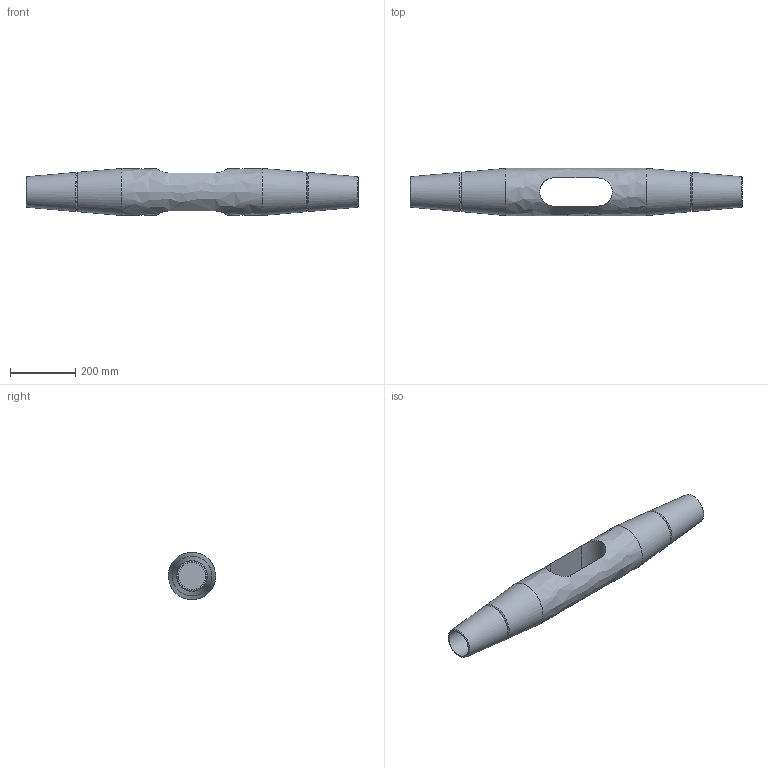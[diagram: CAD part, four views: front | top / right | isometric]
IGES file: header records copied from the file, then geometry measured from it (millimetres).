
Global section: file name: 520-080-KMF; native system: Autodesk Inventor 2016; preprocessor: unknown; author: Administrator; date: 20200702.132804; units: centimetre
Bounding box: 1014 x 144 x 143.95 mm (x, y, z)
Volume: 9912241.3 mm3; surface area: 516704.3 mm2
Topology: 1 solids, 1 shells, 21 faces, 53 edges, 36 vertices
Faces by surface type: bspline 21
